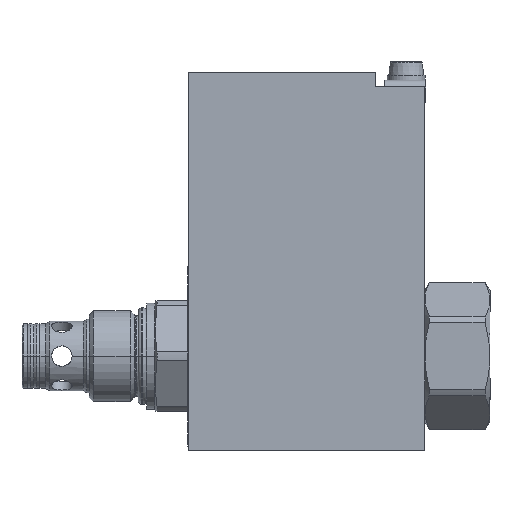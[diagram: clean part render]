
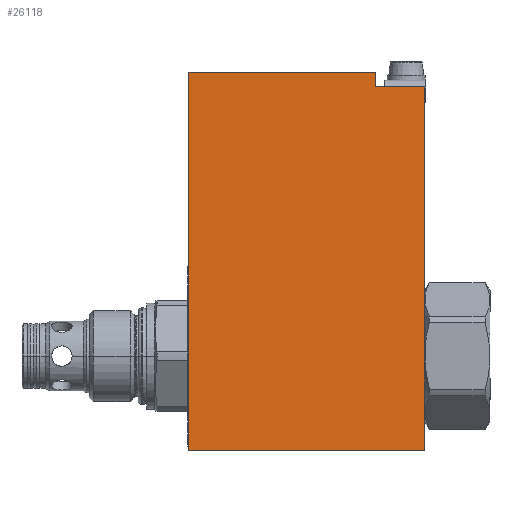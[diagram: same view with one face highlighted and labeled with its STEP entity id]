
A CAD part, front view. The second image highlights one B-rep face of the part: STEP entity #26118.
In plain terms, the highlighted planar face has unit normal (0, -1, 0) as drawn and (1, 0, 0) by its records, which use the part's own axes.
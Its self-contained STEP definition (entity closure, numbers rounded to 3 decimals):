
#18536=DIRECTION('',(0.,0.,1.));
#18537=VECTOR('',#18536,12.);
#18538=CARTESIAN_POINT('',(23.,42.75,0.));
#18539=LINE('',#18538,#18537);
#18543=DIRECTION('',(0.,-1.,0.));
#18544=VECTOR('',#18543,92.5);
#18545=CARTESIAN_POINT('',(23.,46.25,57.85));
#18546=LINE('',#18545,#18544);
#18550=DIRECTION('',(0.,0.,1.));
#18551=VECTOR('',#18550,45.85);
#18552=CARTESIAN_POINT('',(23.,46.25,12.));
#18553=LINE('',#18552,#18551);
#18646=DIRECTION('',(0.,-1.,0.));
#18647=VECTOR('',#18646,3.5);
#18648=CARTESIAN_POINT('',(23.,46.25,12.));
#18649=LINE('',#18648,#18647);
#18732=DIRECTION('',(0.,0.,1.));
#18733=VECTOR('',#18732,57.85);
#18734=CARTESIAN_POINT('',(23.,-46.25,0.));
#18735=LINE('',#18734,#18733);
#18774=DIRECTION('',(0.,-1.,0.));
#18775=VECTOR('',#18774,89.);
#18776=CARTESIAN_POINT('',(23.,42.75,0.));
#18777=LINE('',#18776,#18775);
#24558=CARTESIAN_POINT('',(23.,46.25,12.));
#24560=VERTEX_POINT('',#24558);
#24735=CARTESIAN_POINT('',(23.,42.75,12.));
#24736=VERTEX_POINT('',#24735);
#24969=CARTESIAN_POINT('',(23.,-46.25,57.85));
#24970=VERTEX_POINT('',#24969);
#25089=CARTESIAN_POINT('',(23.,42.75,0.));
#25090=CARTESIAN_POINT('',(23.,-46.25,0.));
#25091=VERTEX_POINT('',#25089);
#25092=VERTEX_POINT('',#25090);
#25201=CARTESIAN_POINT('',(23.,46.25,57.85));
#25202=VERTEX_POINT('',#25201);
#26100=CARTESIAN_POINT('',(23.,46.25,57.85));
#26101=DIRECTION('',(-1.,0.,0.));
#26102=DIRECTION('',(0.,-1.,0.));
#26103=AXIS2_PLACEMENT_3D('',#26100,#26101,#26102);
#26104=PLANE('',#26103);
#26106=ORIENTED_EDGE('',*,*,#26105,.F.);
#26108=ORIENTED_EDGE('',*,*,#26107,.T.);
#26110=ORIENTED_EDGE('',*,*,#26109,.T.);
#26111=ORIENTED_EDGE('',*,*,#26066,.F.);
#26113=ORIENTED_EDGE('',*,*,#26112,.F.);
#26115=ORIENTED_EDGE('',*,*,#26114,.T.);
#26116=EDGE_LOOP('',(#26106,#26108,#26110,#26111,#26113,#26115));
#26117=FACE_OUTER_BOUND('',#26116,.F.);
#26066=EDGE_CURVE('',#25202,#24970,#18546,.T.);
#26105=EDGE_CURVE('',#25091,#24736,#18539,.T.);
#26107=EDGE_CURVE('',#25091,#25092,#18777,.T.);
#26109=EDGE_CURVE('',#25092,#24970,#18735,.T.);
#26112=EDGE_CURVE('',#24560,#25202,#18553,.T.);
#26114=EDGE_CURVE('',#24560,#24736,#18649,.T.);
#26118=ADVANCED_FACE('',(#26117),#26104,.F.);
